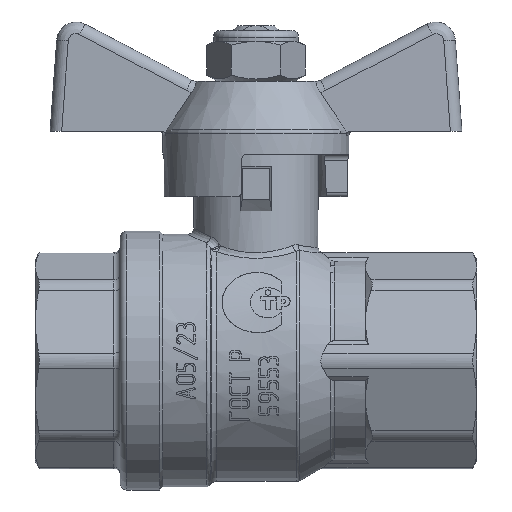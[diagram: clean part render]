
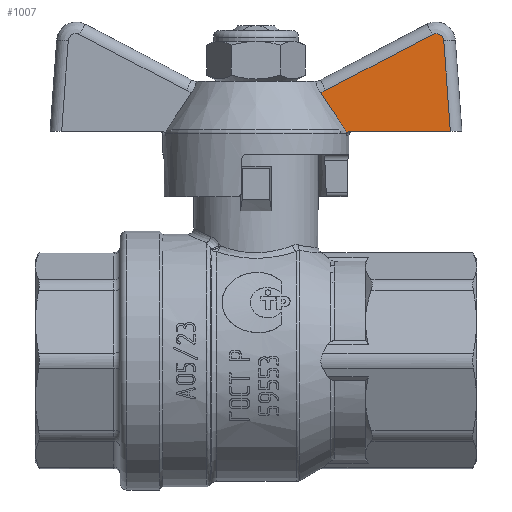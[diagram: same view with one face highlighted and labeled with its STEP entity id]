
A CAD part, left-side view. The second image highlights one B-rep face of the part: STEP entity #1007.
In plain terms, the highlighted planar face has unit normal (-1, -0.017, 0.011).
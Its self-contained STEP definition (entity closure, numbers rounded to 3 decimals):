
#1007=ADVANCED_FACE('',(#8005),#8007,.T.);
#8005=FACE_BOUND('',#8006,.T.);
#8006=EDGE_LOOP('',(#16549,#16550,#16551,#16552,#16553,#16554,#16555,#16556,#16557));
#8007=PLANE('',#8008);
#8008=AXIS2_PLACEMENT_3D('',#8009,#8010,#8011);
#8009=CARTESIAN_POINT('',(-3.078,-49.075,51.8));
#8010=DIRECTION('',(-1.,-0.017,0.01));
#8011=DIRECTION('',(-0.017,1.,0.));
#16549=ORIENTED_EDGE('',*,*,#20684,.F.);
#16550=ORIENTED_EDGE('',*,*,#20463,.T.);
#16551=ORIENTED_EDGE('',*,*,#20683,.F.);
#16552=ORIENTED_EDGE('',*,*,#20685,.F.);
#16553=ORIENTED_EDGE('',*,*,#20686,.T.);
#16554=ORIENTED_EDGE('',*,*,#20687,.T.);
#16555=ORIENTED_EDGE('',*,*,#20688,.T.);
#16556=ORIENTED_EDGE('',*,*,#20689,.F.);
#16557=ORIENTED_EDGE('',*,*,#20690,.F.);
#20463=EDGE_CURVE('',#25394,#25392,#25395,.F.);
#20683=EDGE_CURVE('',#25742,#25392,#25744,.T.);
#20684=EDGE_CURVE('',#25394,#25745,#25746,.F.);
#20685=EDGE_CURVE('',#25747,#25742,#25748,.T.);
#20686=EDGE_CURVE('',#25747,#25749,#25750,.T.);
#20687=EDGE_CURVE('',#25749,#25751,#25752,.F.);
#20688=EDGE_CURVE('',#25751,#25753,#25754,.T.);
#20689=EDGE_CURVE('',#25755,#25753,#25756,.F.);
#20690=EDGE_CURVE('',#25745,#25755,#25757,.T.);
#25392=VERTEX_POINT('',#49452);
#25394=VERTEX_POINT('',#49457);
#25395=(BOUNDED_CURVE()B_SPLINE_CURVE(3,
(#49458,#49459,#49460,#49461),
.UNSPECIFIED.,.F.,.F.)B_SPLINE_CURVE_WITH_KNOTS((4,4),
(0.,1.),
.UNSPECIFIED.)CURVE()GEOMETRIC_REPRESENTATION_ITEM()RATIONAL_B_SPLINE_CURVE((1.,
1.,1.,1.))REPRESENTATION_ITEM(''));
#25742=VERTEX_POINT('',#51103);
#25744=B_SPLINE_CURVE_WITH_KNOTS('',3,
(#51108,#51109,#51110,#51111,#51112,#51113,#51114,#51115,#51116,#51117,#51118,#51119,
#51120,#51121),
.UNSPECIFIED.,.F.,.F.,
(4,1,1,1,1,1,1,1,1,1,1,4),
(0.,0.078,0.157,0.235,0.339,0.468,
0.622,0.746,0.838,0.897,0.951,
1.),
.UNSPECIFIED.);
#25745=VERTEX_POINT('',#51122);
#25746=B_SPLINE_CURVE_WITH_KNOTS('',3,
(#51123,#51124,#51125,#51126,#51127,#51128,#51129,#51130,#51131,#51132,#51133,#51134,
#51135,#51136),
.UNSPECIFIED.,.F.,.F.,
(4,1,1,1,1,1,1,1,1,1,1,4),
(0.,0.072,0.107,0.244,0.406,0.558,
0.669,0.742,0.812,0.897,0.995,
1.),
.UNSPECIFIED.);
#25747=VERTEX_POINT('',#51137);
#25748=LINE('',#51138,#51139);
#25749=VERTEX_POINT('',#51141);
#25750=LINE('',#51142,#51143);
#25751=VERTEX_POINT('',#51145);
#25752=(BOUNDED_CURVE()B_SPLINE_CURVE(3,
(#51146,#51147,#51148,#51149),
.UNSPECIFIED.,.F.,.F.)B_SPLINE_CURVE_WITH_KNOTS((4,4),
(0.,1.),
.UNSPECIFIED.)CURVE()GEOMETRIC_REPRESENTATION_ITEM()RATIONAL_B_SPLINE_CURVE((1.,
0.699,0.699,1.))REPRESENTATION_ITEM(''));
#25753=VERTEX_POINT('',#51150);
#25754=LINE('',#51151,#51152);
#25755=VERTEX_POINT('',#51154);
#25756=B_SPLINE_CURVE_WITH_KNOTS('',3,
(#51155,#51156,#51157,#51158,#51159,#51160,#51161,#51162,#51163,#51164,#51165,#51166,
#51167,#51168,#51169,#51170,#51171,#51172,#51173,#51174,#51175,#51176),
.UNSPECIFIED.,.F.,.F.,
(4,2,2,2,2,2,2,2,2,2,4),
(0.,0.,0.004,0.091,0.177,
0.33,0.479,0.633,0.783,0.911,
1.),
.UNSPECIFIED.);
#25757=B_SPLINE_CURVE_WITH_KNOTS('',3,
(#51177,#51178,#51179,#51180,#51181,#51182,#51183,#51184,#51185),
.UNSPECIFIED.,.F.,.F.,
(4,1,1,1,1,1,4),
(0.,0.118,0.278,0.484,0.694,0.868,
1.),
.UNSPECIFIED.);
#49452=CARTESIAN_POINT('',(-3.564,-31.547,34.5));
#49457=CARTESIAN_POINT('',(-3.562,-31.548,34.75));
#49458=CARTESIAN_POINT('',(-3.564,-31.547,34.5));
#49459=CARTESIAN_POINT('',(-3.563,-31.547,34.583));
#49460=CARTESIAN_POINT('',(-3.562,-31.548,34.666));
#49461=CARTESIAN_POINT('',(-3.562,-31.548,34.75));
#51103=CARTESIAN_POINT('',(-3.547,-32.17,35.1));
#51108=CARTESIAN_POINT('',(-3.547,-32.17,35.1));
#51109=CARTESIAN_POINT('',(-3.547,-32.145,35.1));
#51110=CARTESIAN_POINT('',(-3.548,-32.095,35.097));
#51111=CARTESIAN_POINT('',(-3.55,-32.021,35.084));
#51112=CARTESIAN_POINT('',(-3.551,-31.941,35.06));
#51113=CARTESIAN_POINT('',(-3.553,-31.85,35.018));
#51114=CARTESIAN_POINT('',(-3.556,-31.748,34.947));
#51115=CARTESIAN_POINT('',(-3.559,-31.659,34.85));
#51116=CARTESIAN_POINT('',(-3.561,-31.6,34.747));
#51117=CARTESIAN_POINT('',(-3.562,-31.57,34.664));
#51118=CARTESIAN_POINT('',(-3.563,-31.555,34.6));
#51119=CARTESIAN_POINT('',(-3.564,-31.549,34.549));
#51120=CARTESIAN_POINT('',(-3.564,-31.547,34.516));
#51121=CARTESIAN_POINT('',(-3.564,-31.547,34.5));
#51122=CARTESIAN_POINT('',(-3.558,-31.354,35.395));
#51123=CARTESIAN_POINT('',(-3.558,-31.354,35.395));
#51124=CARTESIAN_POINT('',(-3.558,-31.363,35.382));
#51125=CARTESIAN_POINT('',(-3.558,-31.376,35.361));
#51126=CARTESIAN_POINT('',(-3.558,-31.404,35.313));
#51127=CARTESIAN_POINT('',(-3.558,-31.439,35.246));
#51128=CARTESIAN_POINT('',(-3.559,-31.479,35.151));
#51129=CARTESIAN_POINT('',(-3.559,-31.508,35.058));
#51130=CARTESIAN_POINT('',(-3.559,-31.525,34.983));
#51131=CARTESIAN_POINT('',(-3.56,-31.535,34.926));
#51132=CARTESIAN_POINT('',(-3.56,-31.542,34.874));
#51133=CARTESIAN_POINT('',(-3.561,-31.547,34.817));
#51134=CARTESIAN_POINT('',(-3.561,-31.548,34.774));
#51135=CARTESIAN_POINT('',(-3.562,-31.548,34.751));
#51136=CARTESIAN_POINT('',(-3.562,-31.548,34.75));
#51137=CARTESIAN_POINT('',(-3.281,-47.478,35.1));
#51138=CARTESIAN_POINT('',(-3.281,-47.478,35.1));
#51139=VECTOR('',#51140,1.);
#51140=DIRECTION('',(-0.017,1.,0.));
#51141=CARTESIAN_POINT('',(-3.154,-46.478,48.906));
#51142=CARTESIAN_POINT('',(-3.281,-47.478,35.1));
#51143=VECTOR('',#51144,1.);
#51144=DIRECTION('',(0.009,0.072,0.997));
#51145=CARTESIAN_POINT('',(-3.174,-44.724,49.882));
#51146=CARTESIAN_POINT('',(-3.174,-44.724,49.882));
#51147=CARTESIAN_POINT('',(-3.154,-45.572,50.326));
#51148=CARTESIAN_POINT('',(-3.145,-46.409,49.861));
#51149=CARTESIAN_POINT('',(-3.154,-46.478,48.906));
#51150=CARTESIAN_POINT('',(-3.547,-28.427,41.34));
#51151=CARTESIAN_POINT('',(-3.174,-44.724,49.882));
#51152=VECTOR('',#51153,1.);
#51153=DIRECTION('',(-0.02,0.886,-0.464));
#51154=CARTESIAN_POINT('',(-3.565,-27.603,41.011));
#51155=CARTESIAN_POINT('',(-3.547,-28.427,41.34));
#51156=CARTESIAN_POINT('',(-3.547,-28.427,41.34));
#51157=CARTESIAN_POINT('',(-3.547,-28.427,41.34));
#51158=CARTESIAN_POINT('',(-3.547,-28.426,41.339));
#51159=CARTESIAN_POINT('',(-3.547,-28.425,41.339));
#51160=CARTESIAN_POINT('',(-3.547,-28.404,41.328));
#51161=CARTESIAN_POINT('',(-3.548,-28.378,41.314));
#51162=CARTESIAN_POINT('',(-3.549,-28.333,41.291));
#51163=CARTESIAN_POINT('',(-3.549,-28.31,41.28));
#51164=CARTESIAN_POINT('',(-3.551,-28.246,41.25));
#51165=CARTESIAN_POINT('',(-3.552,-28.205,41.231));
#51166=CARTESIAN_POINT('',(-3.554,-28.123,41.195));
#51167=CARTESIAN_POINT('',(-3.554,-28.082,41.178));
#51168=CARTESIAN_POINT('',(-3.556,-27.999,41.144));
#51169=CARTESIAN_POINT('',(-3.557,-27.956,41.127));
#51170=CARTESIAN_POINT('',(-3.559,-27.871,41.096));
#51171=CARTESIAN_POINT('',(-3.56,-27.829,41.082));
#51172=CARTESIAN_POINT('',(-3.562,-27.751,41.056));
#51173=CARTESIAN_POINT('',(-3.562,-27.715,41.044));
#51174=CARTESIAN_POINT('',(-3.564,-27.653,41.026));
#51175=CARTESIAN_POINT('',(-3.564,-27.628,41.018));
#51176=CARTESIAN_POINT('',(-3.565,-27.603,41.011));
#51177=CARTESIAN_POINT('',(-3.558,-31.354,35.395));
#51178=CARTESIAN_POINT('',(-3.558,-31.208,35.616));
#51179=CARTESIAN_POINT('',(-3.559,-30.863,36.138));
#51180=CARTESIAN_POINT('',(-3.56,-30.262,37.046));
#51181=CARTESIAN_POINT('',(-3.561,-29.543,38.127));
#51182=CARTESIAN_POINT('',(-3.562,-28.805,39.231));
#51183=CARTESIAN_POINT('',(-3.563,-28.156,40.195));
#51184=CARTESIAN_POINT('',(-3.564,-27.77,40.765));
#51185=CARTESIAN_POINT('',(-3.565,-27.603,41.011));
